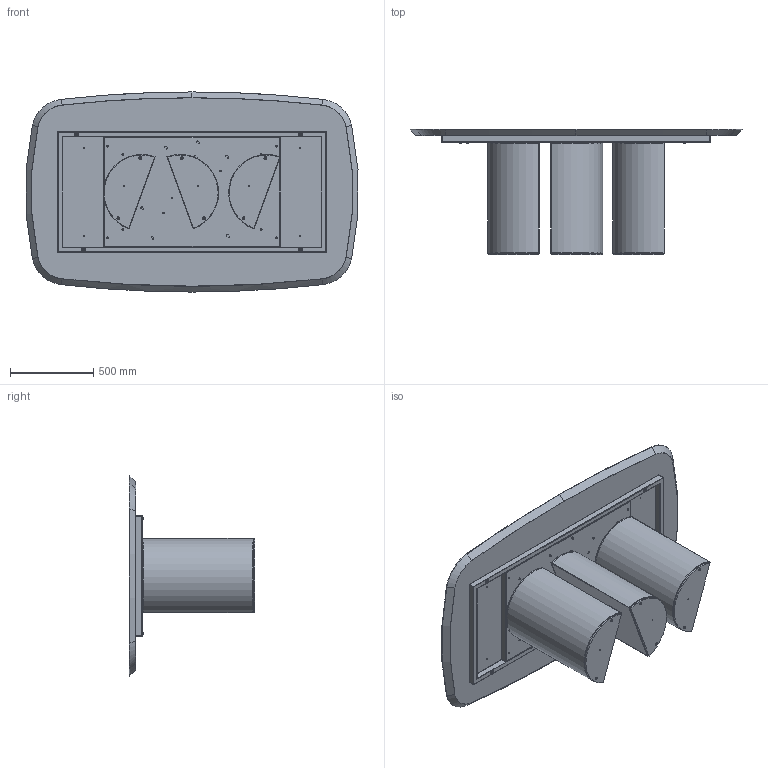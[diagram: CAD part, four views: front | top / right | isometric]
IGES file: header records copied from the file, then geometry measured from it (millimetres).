
Start section: SolidWorks IGES file using analytic representation for surfaces
Global section: file name: Y:\eforma\TECNICO\SOLIDWORKS\E-FORMA\1-TAVOLI\PLAI\02 parts\PL41W.IGS; native system: SolidWorks 2022; preprocessor: SolidWorks 2022; author: eforma.tech; date: 240807.155445; units: millimetre
Bounding box: 1990.53 x 752 x 1200 mm (x, y, z)
Volume: 94214832.4 mm3; surface area: 13218978.1 mm2
Topology: 44 solids, 44 shells, 1307 faces, 2958 edges, 1703 vertices
Faces by surface type: revolution 800, plane 507
